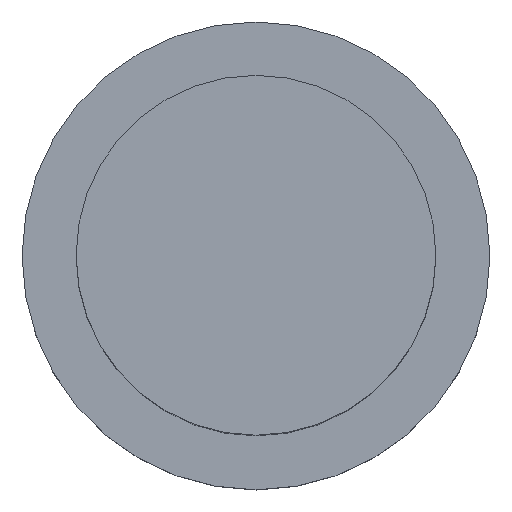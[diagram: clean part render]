
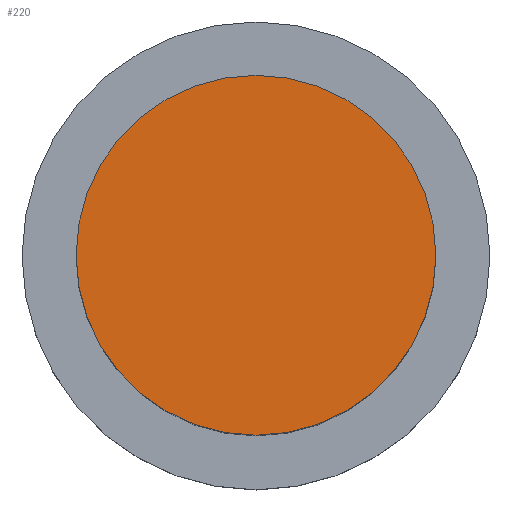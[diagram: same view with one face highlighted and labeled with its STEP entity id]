
A CAD part, top view. The second image highlights one B-rep face of the part: STEP entity #220.
In plain terms, the highlighted planar face has unit normal (0, 0, 1).
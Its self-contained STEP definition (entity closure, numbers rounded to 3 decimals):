
#19=CARTESIAN_POINT('',(0.,0.,0.));
#20=DIRECTION('',(0.,0.,1.));
#21=DIRECTION('',(0.,1.,0.));
#22=AXIS2_PLACEMENT_3D('',#19,#20,#21);
#24=CARTESIAN_POINT('',(0.,0.,0.));
#25=DIRECTION('',(0.,0.,-1.));
#26=DIRECTION('',(0.,1.,0.));
#27=AXIS2_PLACEMENT_3D('',#24,#25,#26);
#144=CARTESIAN_POINT('',(0.,1.,0.));
#146=VERTEX_POINT('',#144);
#164=CARTESIAN_POINT('',(0.,-1.,0.));
#166=VERTEX_POINT('',#164);
#211=CARTESIAN_POINT('',(0.,0.,0.));
#212=DIRECTION('',(0.,0.,-1.));
#213=DIRECTION('',(0.,-1.,0.));
#214=AXIS2_PLACEMENT_3D('',#211,#212,#213);
#215=PLANE('',#214);
#216=ORIENTED_EDGE('',*,*,#203,.F.);
#217=ORIENTED_EDGE('',*,*,#192,.T.);
#218=EDGE_LOOP('',(#216,#217));
#219=FACE_OUTER_BOUND('',#218,.F.);
#220=ADVANCED_FACE('',(#219),#215,.F.);
#23=CIRCLE('',#22,1.);
#28=CIRCLE('',#27,1.);
#192=EDGE_CURVE('',#146,#166,#28,.T.);
#203=EDGE_CURVE('',#146,#166,#23,.T.);
